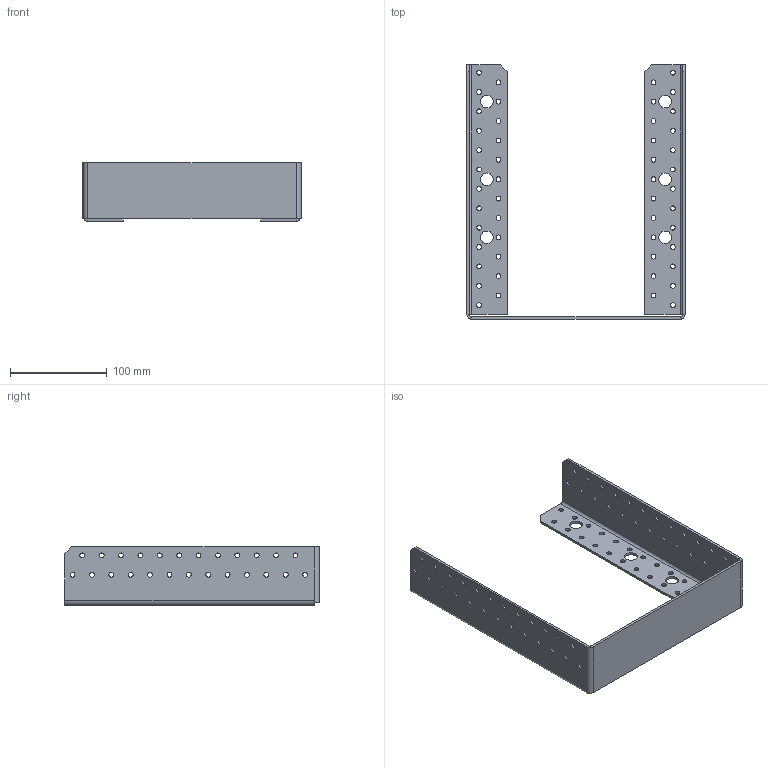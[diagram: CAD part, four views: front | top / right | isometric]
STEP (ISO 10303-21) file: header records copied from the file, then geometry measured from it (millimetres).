
FILE_DESCRIPTION (( 'STEP AP203' ), '1' );
FILE_NAME ('40529IKO.STEP', '2021-04-16T10:09:27', ( '' ), ( '' ), 'SwSTEP 2.0', 'SolidWorks 2013', '' );
FILE_SCHEMA (( 'CONFIG_CONTROL_DESIGN' ));
Length unit declared in the file: millimetre
Products named in the file (1): 40529IKO
Bounding box: 225 x 262.5 x 60.5 mm (x, y, z)
Volume: 151772.5 mm3; surface area: 130316.6 mm2
Topology: 1 solids, 1 shells, 256 faces, 732 edges, 478 vertices
Faces by surface type: cylinder 220, plane 36
Entity records: 9079 total; most frequent: DIRECTION 1688, CARTESIAN_POINT 1467, ORIENTED_EDGE 1464, EDGE_CURVE 732, AXIS2_PLACEMENT_3D 699, VERTEX_POINT 478, EDGE_LOOP 468, CIRCLE 442
